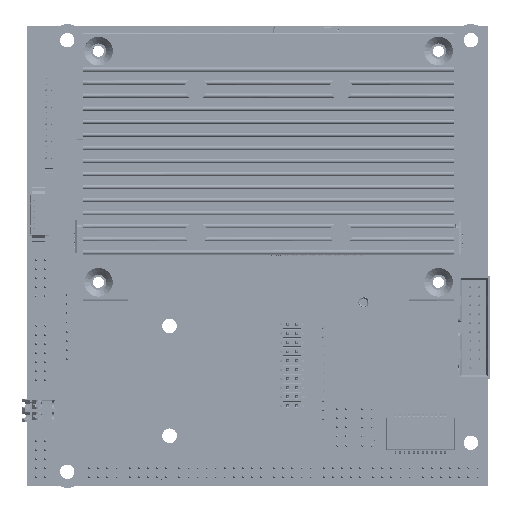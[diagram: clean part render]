
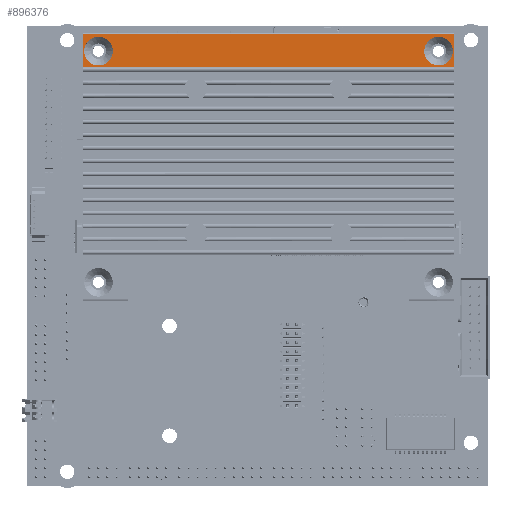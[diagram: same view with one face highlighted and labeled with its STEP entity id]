
A CAD part, top view. The second image highlights one B-rep face of the part: STEP entity #896376.
In plain terms, the highlighted planar face has unit normal (0, 0, 1) as drawn and (0, 1, 0) by its records, which use the part's own axes.
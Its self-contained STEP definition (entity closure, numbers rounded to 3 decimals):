
#893670=DIRECTION('',(-1.,0.,0.));
#893671=VECTOR('',#893670,7.24);
#893672=CARTESIAN_POINT('',(8.677,4.319,0.));
#893673=LINE('',#893672,#893671);
#893695=DIRECTION('',(0.,0.,1.));
#893696=VECTOR('',#893695,82.);
#893697=CARTESIAN_POINT('',(1.437,4.319,0.));
#893698=LINE('',#893697,#893696);
#893703=DIRECTION('',(-1.,0.,0.));
#893704=VECTOR('',#893703,7.24);
#893705=CARTESIAN_POINT('',(8.677,4.319,82.));
#893706=LINE('',#893705,#893704);
#893707=CARTESIAN_POINT('',(5.137,4.319,78.5));
#893708=DIRECTION('',(0.,1.,0.));
#893709=DIRECTION('',(0.,0.,1.));
#893710=AXIS2_PLACEMENT_3D('',#893707,#893708,#893709);
#893712=CARTESIAN_POINT('',(5.137,4.319,78.5));
#893713=DIRECTION('',(0.,1.,0.));
#893714=DIRECTION('',(0.,0.,-1.));
#893715=AXIS2_PLACEMENT_3D('',#893712,#893713,#893714);
#893717=CARTESIAN_POINT('',(5.137,4.319,3.5));
#893718=DIRECTION('',(0.,1.,0.));
#893719=DIRECTION('',(0.,0.,1.));
#893720=AXIS2_PLACEMENT_3D('',#893717,#893718,#893719);
#893722=CARTESIAN_POINT('',(5.137,4.319,3.5));
#893723=DIRECTION('',(0.,1.,0.));
#893724=DIRECTION('',(0.,0.,-1.));
#893725=AXIS2_PLACEMENT_3D('',#893722,#893723,#893724);
#893731=DIRECTION('',(0.,0.,-1.));
#893732=VECTOR('',#893731,82.);
#893733=CARTESIAN_POINT('',(8.677,4.319,82.));
#893734=LINE('',#893733,#893732);
#895309=CARTESIAN_POINT('',(1.437,4.319,82.));
#895310=VERTEX_POINT('',#895309);
#895311=CARTESIAN_POINT('',(8.677,4.319,82.));
#895312=VERTEX_POINT('',#895311);
#895575=CARTESIAN_POINT('',(8.677,4.319,0.));
#895576=VERTEX_POINT('',#895575);
#895577=CARTESIAN_POINT('',(1.437,4.319,0.));
#895578=VERTEX_POINT('',#895577);
#895581=CARTESIAN_POINT('',(5.137,4.319,81.65));
#895582=CARTESIAN_POINT('',(5.137,4.319,75.35));
#895583=VERTEX_POINT('',#895581);
#895584=VERTEX_POINT('',#895582);
#895585=CARTESIAN_POINT('',(5.137,4.319,6.65));
#895586=CARTESIAN_POINT('',(5.137,4.319,0.35));
#895587=VERTEX_POINT('',#895585);
#895588=VERTEX_POINT('',#895586);
#896352=CARTESIAN_POINT('',(48.887,4.319,0.));
#896353=DIRECTION('',(0.,1.,0.));
#896354=DIRECTION('',(-1.,0.,0.));
#896355=AXIS2_PLACEMENT_3D('',#896352,#896353,#896354);
#896356=PLANE('',#896355);
#896357=ORIENTED_EDGE('',*,*,#896304,.F.);
#896359=ORIENTED_EDGE('',*,*,#896358,.F.);
#896360=ORIENTED_EDGE('',*,*,#895942,.T.);
#896361=ORIENTED_EDGE('',*,*,#896344,.F.);
#896362=EDGE_LOOP('',(#896357,#896359,#896360,#896361));
#896363=FACE_OUTER_BOUND('',#896362,.F.);
#896365=ORIENTED_EDGE('',*,*,#896364,.T.);
#896367=ORIENTED_EDGE('',*,*,#896366,.T.);
#896368=EDGE_LOOP('',(#896365,#896367));
#896369=FACE_BOUND('',#896368,.F.);
#896371=ORIENTED_EDGE('',*,*,#896370,.T.);
#896373=ORIENTED_EDGE('',*,*,#896372,.T.);
#896374=EDGE_LOOP('',(#896371,#896373));
#896375=FACE_BOUND('',#896374,.F.);
#896376=ADVANCED_FACE('',(#896363,#896369,#896375),#896356,.T.);
#893711=CIRCLE('',#893710,3.15);
#893716=CIRCLE('',#893715,3.15);
#893721=CIRCLE('',#893720,3.15);
#893726=CIRCLE('',#893725,3.15);
#895942=EDGE_CURVE('',#895312,#895310,#893706,.T.);
#896304=EDGE_CURVE('',#895576,#895578,#893673,.T.);
#896344=EDGE_CURVE('',#895578,#895310,#893698,.T.);
#896358=EDGE_CURVE('',#895312,#895576,#893734,.T.);
#896364=EDGE_CURVE('',#895583,#895584,#893711,.T.);
#896366=EDGE_CURVE('',#895584,#895583,#893716,.T.);
#896370=EDGE_CURVE('',#895587,#895588,#893721,.T.);
#896372=EDGE_CURVE('',#895588,#895587,#893726,.T.);
